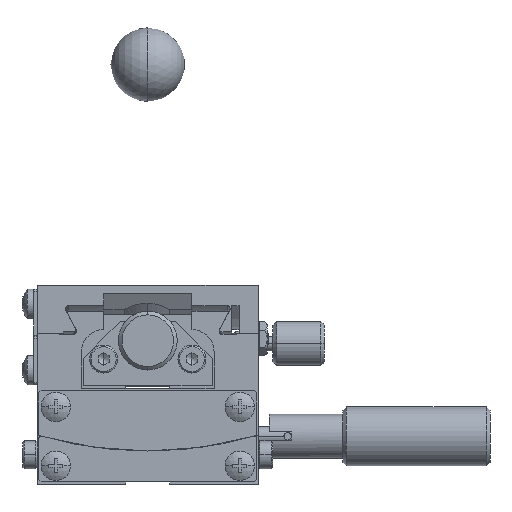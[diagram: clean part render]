
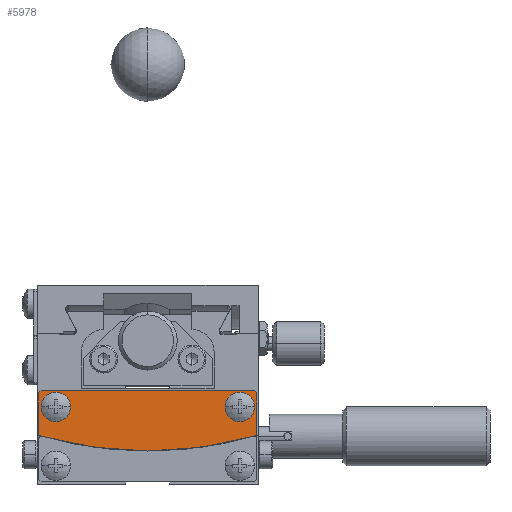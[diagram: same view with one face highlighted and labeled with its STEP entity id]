
A CAD part, left-side view. The second image highlights one B-rep face of the part: STEP entity #5978.
In plain terms, the highlighted planar face has unit normal (-1, 0, 0).
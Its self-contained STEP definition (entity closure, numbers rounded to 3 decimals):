
#1021 = EDGE_CURVE ( 'NONE', #1027, #1041, #14448, .T. ) ;
#1027 = VERTEX_POINT ( 'NONE', #14438 ) ;
#1041 = VERTEX_POINT ( 'NONE', #14477 ) ;
#1128 = EDGE_CURVE ( 'NONE', #1129, #1130, #14675, .T. ) ;
#1129 = VERTEX_POINT ( 'NONE', #14666 ) ;
#1130 = VERTEX_POINT ( 'NONE', #14665 ) ;
#5884 = EDGE_CURVE ( 'NONE', #5885, #5886, #23422, .T. ) ;
#5885 = VERTEX_POINT ( 'NONE', #23414 ) ;
#5886 = VERTEX_POINT ( 'NONE', #23413 ) ;
#5897 = EDGE_LOOP ( 'NONE', ( #5898, #5899, #5961, #5963, #5966, #5969, #5972 ) ) ;
#5898 = ORIENTED_EDGE ( 'NONE', *, *, #5884, .F. ) ;
#5899 = ORIENTED_EDGE ( 'NONE', *, *, #5900, .F. ) ;
#5900 = EDGE_CURVE ( 'NONE', #5901, #5885, #23449, .T. ) ;
#5901 = VERTEX_POINT ( 'NONE', #23445 ) ;
#5902 = VERTEX_POINT ( 'NONE', #23444 ) ;
#5945 = ORIENTED_EDGE ( 'NONE', *, *, #1128, .F. ) ;
#5946 = ORIENTED_EDGE ( 'NONE', *, *, #5947, .F. ) ;
#5947 = EDGE_CURVE ( 'NONE', #1130, #1129, #23544, .T. ) ;
#5961 = ORIENTED_EDGE ( 'NONE', *, *, #5962, .F. ) ;
#5962 = EDGE_CURVE ( 'NONE', #5902, #5901, #23581, .T. ) ;
#5963 = ORIENTED_EDGE ( 'NONE', *, *, #5964, .F. ) ;
#5964 = EDGE_CURVE ( 'NONE', #5965, #5902, #23576, .T. ) ;
#5965 = VERTEX_POINT ( 'NONE', #23572 ) ;
#5966 = ORIENTED_EDGE ( 'NONE', *, *, #5967, .F. ) ;
#5967 = EDGE_CURVE ( 'NONE', #5968, #5965, #23571, .T. ) ;
#5968 = VERTEX_POINT ( 'NONE', #23567 ) ;
#5969 = ORIENTED_EDGE ( 'NONE', *, *, #5970, .F. ) ;
#5970 = EDGE_CURVE ( 'NONE', #5971, #5968, #23566, .T. ) ;
#5971 = VERTEX_POINT ( 'NONE', #23562 ) ;
#5972 = ORIENTED_EDGE ( 'NONE', *, *, #5973, .F. ) ;
#5973 = EDGE_CURVE ( 'NONE', #5886, #5971, #23561, .T. ) ;
#5974 = EDGE_LOOP ( 'NONE', ( #5945, #5946 ) ) ;
#5978 = ADVANCED_FACE ( 'NONE', ( #23550, #23549, #23548 ), #23556, .F. ) ;
#5979 = EDGE_LOOP ( 'NONE', ( #5980, #5981 ) ) ;
#5980 = ORIENTED_EDGE ( 'NONE', *, *, #1021, .F. ) ;
#5981 = ORIENTED_EDGE ( 'NONE', *, *, #5982, .F. ) ;
#5982 = EDGE_CURVE ( 'NONE', #1041, #1027, #23611, .T. ) ;
#14438 = CARTESIAN_POINT ( 'NONE',  ( -15.5, 10.5, -2.5 ) ) ;
#14444 = DIRECTION ( 'NONE',  ( 0., -1., 0. ) ) ;
#14445 = DIRECTION ( 'NONE',  ( -1., 0., 0. ) ) ;
#14446 = CARTESIAN_POINT ( 'NONE',  ( -15.5, 12.5, -2.5 ) ) ;
#14447 = AXIS2_PLACEMENT_3D ( 'NONE', #14446, #14445, #14444 ) ;
#14448 = CIRCLE ( 'NONE', #14447, 2. ) ;
#14477 = CARTESIAN_POINT ( 'NONE',  ( -15.5, 14.5, -2.5 ) ) ;
#14665 = CARTESIAN_POINT ( 'NONE',  ( -15.5, -10.5, -2.5 ) ) ;
#14666 = CARTESIAN_POINT ( 'NONE',  ( -15.5, -14.5, -2.5 ) ) ;
#14667 = DIRECTION ( 'NONE',  ( 0., -1., 0. ) ) ;
#14668 = DIRECTION ( 'NONE',  ( -1., 0., 0. ) ) ;
#14669 = CARTESIAN_POINT ( 'NONE',  ( -15.5, -12.5, -2.5 ) ) ;
#14670 = AXIS2_PLACEMENT_3D ( 'NONE', #14669, #14668, #14667 ) ;
#14675 = CIRCLE ( 'NONE', #14670, 2. ) ;
#23413 = CARTESIAN_POINT ( 'NONE',  ( -15.5, 0., -8.5 ) ) ;
#23414 = CARTESIAN_POINT ( 'NONE',  ( -15.5, -14.8, -6.371 ) ) ;
#23415 = DIRECTION ( 'NONE',  ( 0., 1., 0. ) ) ;
#23416 = DIRECTION ( 'NONE',  ( 1., 0., 0. ) ) ;
#23417 = CARTESIAN_POINT ( 'NONE',  ( -15.5, 0., 44. ) ) ;
#23418 = AXIS2_PLACEMENT_3D ( 'NONE', #23417, #23416, #23415 ) ;
#23422 = CIRCLE ( 'NONE', #23418, 52.5 ) ;
#23444 = CARTESIAN_POINT ( 'NONE',  ( -15.5, -14.5, -0.3 ) ) ;
#23445 = CARTESIAN_POINT ( 'NONE',  ( -15.5, -14.8, -0.6 ) ) ;
#23446 = DIRECTION ( 'NONE',  ( 0., 0., -1. ) ) ;
#23447 = VECTOR ( 'NONE', #23446, 1000. ) ;
#23448 = CARTESIAN_POINT ( 'NONE',  ( -15.5, -14.8, -0.6 ) ) ;
#23449 = LINE ( 'NONE', #23448, #23447 ) ;
#23540 = DIRECTION ( 'NONE',  ( 0., -1., 0. ) ) ;
#23541 = DIRECTION ( 'NONE',  ( -1., 0., 0. ) ) ;
#23542 = CARTESIAN_POINT ( 'NONE',  ( -15.5, -12.5, -2.5 ) ) ;
#23543 = AXIS2_PLACEMENT_3D ( 'NONE', #23542, #23541, #23540 ) ;
#23544 = CIRCLE ( 'NONE', #23543, 2. ) ;
#23547 = AXIS2_PLACEMENT_3D ( 'NONE', #23610, #23609, #23608 ) ;
#23548 = FACE_BOUND ( 'NONE', #5974, .T. ) ;
#23549 = FACE_OUTER_BOUND ( 'NONE', #5897, .T. ) ;
#23550 = FACE_BOUND ( 'NONE', #5979, .T. ) ;
#23556 = PLANE ( 'NONE',  #23547 ) ;
#23557 = DIRECTION ( 'NONE',  ( 0., 1., 0. ) ) ;
#23558 = DIRECTION ( 'NONE',  ( 1., 0., 0. ) ) ;
#23559 = CARTESIAN_POINT ( 'NONE',  ( -15.5, 0., 44. ) ) ;
#23560 = AXIS2_PLACEMENT_3D ( 'NONE', #23559, #23558, #23557 ) ;
#23561 = CIRCLE ( 'NONE', #23560, 52.5 ) ;
#23562 = CARTESIAN_POINT ( 'NONE',  ( -15.5, 14.8, -6.371 ) ) ;
#23563 = DIRECTION ( 'NONE',  ( 0., 0., 1. ) ) ;
#23564 = VECTOR ( 'NONE', #23563, 1000. ) ;
#23565 = CARTESIAN_POINT ( 'NONE',  ( -15.5, 14.8, -6.371 ) ) ;
#23566 = LINE ( 'NONE', #23565, #23564 ) ;
#23567 = CARTESIAN_POINT ( 'NONE',  ( -15.5, 14.8, -0.6 ) ) ;
#23568 = DIRECTION ( 'NONE',  ( 0., -0.707, 0.707 ) ) ;
#23569 = VECTOR ( 'NONE', #23568, 1000. ) ;
#23570 = CARTESIAN_POINT ( 'NONE',  ( -15.5, 14.8, -0.6 ) ) ;
#23571 = LINE ( 'NONE', #23570, #23569 ) ;
#23572 = CARTESIAN_POINT ( 'NONE',  ( -15.5, 14.5, -0.3 ) ) ;
#23573 = DIRECTION ( 'NONE',  ( 0., -1., 0. ) ) ;
#23574 = VECTOR ( 'NONE', #23573, 1000. ) ;
#23575 = CARTESIAN_POINT ( 'NONE',  ( -15.5, 14.5, -0.3 ) ) ;
#23576 = LINE ( 'NONE', #23575, #23574 ) ;
#23578 = DIRECTION ( 'NONE',  ( 0., -0.707, -0.707 ) ) ;
#23579 = VECTOR ( 'NONE', #23578, 1000. ) ;
#23580 = CARTESIAN_POINT ( 'NONE',  ( -15.5, -14.5, -0.3 ) ) ;
#23581 = LINE ( 'NONE', #23580, #23579 ) ;
#23604 = DIRECTION ( 'NONE',  ( 0., -1., 0. ) ) ;
#23605 = DIRECTION ( 'NONE',  ( -1., 0., 0. ) ) ;
#23606 = CARTESIAN_POINT ( 'NONE',  ( -15.5, 12.5, -2.5 ) ) ;
#23607 = AXIS2_PLACEMENT_3D ( 'NONE', #23606, #23605, #23604 ) ;
#23608 = DIRECTION ( 'NONE',  ( 0., 1., 0. ) ) ;
#23609 = DIRECTION ( 'NONE',  ( 1., 0., 0. ) ) ;
#23610 = CARTESIAN_POINT ( 'NONE',  ( -15.5, 0., 44. ) ) ;
#23611 = CIRCLE ( 'NONE', #23607, 2. ) ;
